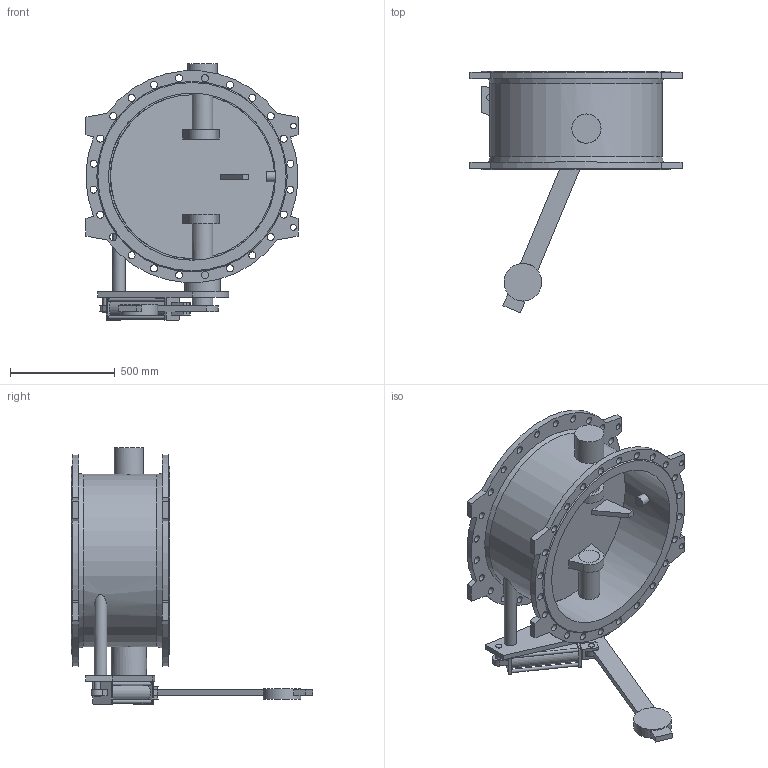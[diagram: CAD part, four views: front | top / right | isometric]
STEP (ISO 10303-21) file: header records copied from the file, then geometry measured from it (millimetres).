
FILE_DESCRIPTION(('STEP AP203'), '1');
FILE_NAME('Êëàïàí 015F.PV DN800 PN10 ñ ïðîòèâîâåñîì ñ äåìïôåðîì', '', ('UNSPECIFIED'), ('UNSPECIFIED'), 'ASCON STEP Converter 1.6', 'ASCON Math Kernel', '');
FILE_SCHEMA(('CONFIG_CONTROL_DESIGN'));
Length unit declared in the file: millimetre
Bounding box: 1015 x 1155 x 1227 mm (x, y, z)
Volume: 59454057.6 mm3; surface area: 6033126.1 mm2
Topology: 1 solids, 1 shells, 215 faces, 552 edges, 366 vertices
Faces by surface type: cylinder 106, plane 100, cone 4, extrusion 2, torus 2, bspline 1
Full cylindrical faces by diameter (mm): 16 x5, 25 x2, 28 x4, 30 x7, 34 x48, 40 x1, 50 x1, 60 x1, 90 x1, 100 x3, 102 x2, 140 x1, 170 x1, 180 x1, 800 x1, 826 x1
Entity records: 10231 total; most frequent: CARTESIAN_POINT 3195, DIRECTION 1074, ORIENTED_EDGE 914, EDGE_LOOP 462, EDGE_CURVE 457, AXIS2_PLACEMENT_3D 429, VERTEX_POINT 365, FACE_BOUND 290
